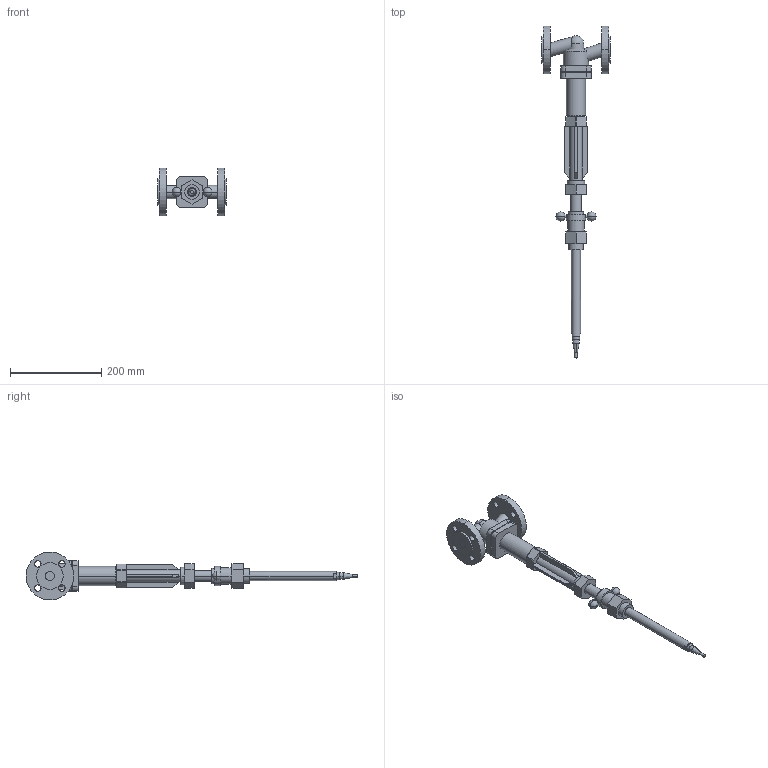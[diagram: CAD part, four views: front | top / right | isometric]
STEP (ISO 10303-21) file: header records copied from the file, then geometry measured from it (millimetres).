
FILE_DESCRIPTION(('CoCreate Modeling STEP Export'),'2;1');
FILE_NAME('c000001249.stp','2011-09-22T11:16:23',(''),(''),'CoCreate Modeling STEP processor for AP214 (Solid Model)','CoCreate Modeling 17.0 01-Apr-2010 (C) Parametric Technology GmbH','');
FILE_SCHEMA(('AUTOMOTIVE_DESIGN { 1 0 10303 214 1 1 1 1 }'));
Length unit declared in the file: millimetre
Products named in the file (1): 1
Bounding box: 150 x 729.05 x 105 mm (x, y, z)
Volume: 1026491.2 mm3; surface area: 158452.3 mm2
Topology: 1 solids, 1 shells, 202 faces, 508 edges, 325 vertices
Faces by surface type: plane 92, cylinder 90, sphere 10, cone 10
Entity records: 9041 total; most frequent: CARTESIAN_POINT 2926, ORIENTED_EDGE 996, DIRECTION 835, EDGE_CURVE 498, VERTEX_POINT 325, AXIS2_PLACEMENT_3D 291, VECTOR 253, LINE 253
